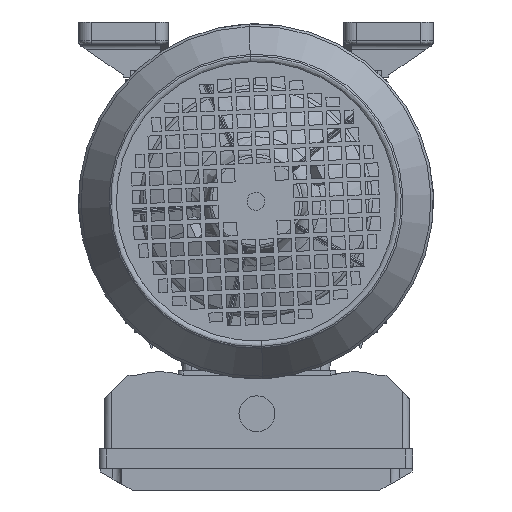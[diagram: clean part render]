
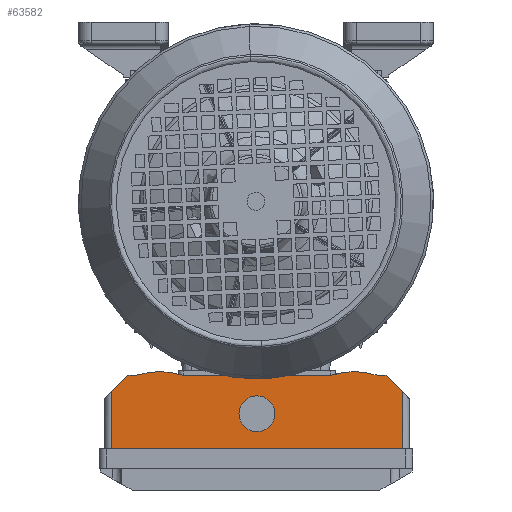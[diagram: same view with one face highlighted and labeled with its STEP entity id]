
A CAD part, front view. The second image highlights one B-rep face of the part: STEP entity #63582.
In plain terms, the highlighted planar face has unit normal (0, -1, 0) as drawn and (0, 0, -1) by its records, which use the part's own axes.
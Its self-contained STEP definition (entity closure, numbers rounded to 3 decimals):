
#10948 = CIRCLE ( 'NONE', #42599, 10. ) ;
#10960 = CIRCLE ( 'NONE', #42702, 41.641 ) ;
#10967 = CIRCLE ( 'NONE', #42751, 41.641 ) ;
#10976 = CIRCLE ( 'NONE', #42831, 10. ) ;
#15045 = VERTEX_POINT ( 'NONE', #52760 ) ;
#15061 = VERTEX_POINT ( 'NONE', #52776 ) ;
#15106 = VERTEX_POINT ( 'NONE', #52821 ) ;
#15130 = VERTEX_POINT ( 'NONE', #52845 ) ;
#15143 = VERTEX_POINT ( 'NONE', #52858 ) ;
#15163 = VERTEX_POINT ( 'NONE', #52878 ) ;
#15178 = VERTEX_POINT ( 'NONE', #52893 ) ;
#15190 = VERTEX_POINT ( 'NONE', #52905 ) ;
#15214 = VERTEX_POINT ( 'NONE', #52929 ) ;
#15232 = VERTEX_POINT ( 'NONE', #52947 ) ;
#15240 = VERTEX_POINT ( 'NONE', #52955 ) ;
#15280 = VERTEX_POINT ( 'NONE', #52995 ) ;
#41779 = FACE_BOUND ( 'NONE', #51202, .T. ) ;
#41783 = FACE_OUTER_BOUND ( 'NONE', #50878, .T. ) ;
#41810 = AXIS2_PLACEMENT_3D ( 'NONE', #44115, #44116, #44117 ) ;
#42599 = AXIS2_PLACEMENT_3D ( 'NONE', #46404, #46405, #46406 ) ;
#42702 = AXIS2_PLACEMENT_3D ( 'NONE', #46534, #46541, #46542 ) ;
#42743 = VECTOR ( 'NONE', #46592, 1000. ) ;
#42751 = AXIS2_PLACEMENT_3D ( 'NONE', #46616, #46620, #46621 ) ;
#42771 = VECTOR ( 'NONE', #46653, 1000. ) ;
#42791 = VECTOR ( 'NONE', #46684, 1000. ) ;
#42799 = VECTOR ( 'NONE', #46707, 1000. ) ;
#42824 = VECTOR ( 'NONE', #46771, 1000. ) ;
#42831 = AXIS2_PLACEMENT_3D ( 'NONE', #47372, #47398, #47400 ) ;
#42839 = VECTOR ( 'NONE', #47396, 1000. ) ;
#42844 = VECTOR ( 'NONE', #47407, 1000. ) ;
#42847 = VECTOR ( 'NONE', #47413, 1000. ) ;
#44114 = PLANE ( 'NONE',  #41810 ) ;
#44115 = CARTESIAN_POINT ( 'NONE',  ( -54.25, 39.641, -144. ) ) ;
#44116 = DIRECTION ( 'NONE',  ( 0., 0., -1. ) ) ;
#44117 = DIRECTION ( 'NONE',  ( -1., 0., 0. ) ) ;
#46404 = CARTESIAN_POINT ( 'NONE',  ( 0., 21.5, -144. ) ) ;
#46405 = DIRECTION ( 'NONE',  ( 0., 0., -1. ) ) ;
#46406 = DIRECTION ( 'NONE',  ( -1., 0., 0. ) ) ;
#46534 = CARTESIAN_POINT ( 'NONE',  ( 54.25, 39.641, -144. ) ) ;
#46541 = DIRECTION ( 'NONE',  ( 0., 0., 1. ) ) ;
#46542 = DIRECTION ( 'NONE',  ( 1., 0., 0. ) ) ;
#46590 = LINE ( 'NONE', #46591, #42743 ) ;
#46591 = CARTESIAN_POINT ( 'NONE',  ( -41.5, 0., -144. ) ) ;
#46592 = DIRECTION ( 'NONE',  ( 1., 0., 0. ) ) ;
#46616 = CARTESIAN_POINT ( 'NONE',  ( -54.25, 39.641, -144. ) ) ;
#46620 = DIRECTION ( 'NONE',  ( 0., 0., 1. ) ) ;
#46621 = DIRECTION ( 'NONE',  ( -1., 0., 0. ) ) ;
#46651 = LINE ( 'NONE', #46652, #42771 ) ;
#46652 = CARTESIAN_POINT ( 'NONE',  ( -85., 41., -144. ) ) ;
#46653 = DIRECTION ( 'NONE',  ( -1., 0., 0. ) ) ;
#46680 = LINE ( 'NONE', #46682, #42791 ) ;
#46682 = CARTESIAN_POINT ( 'NONE',  ( -72., 0., -144. ) ) ;
#46684 = DIRECTION ( 'NONE',  ( 1., 0., 0. ) ) ;
#46702 = LINE ( 'NONE', #46704, #42799 ) ;
#46704 = CARTESIAN_POINT ( 'NONE',  ( -85., 13., -144. ) ) ;
#46707 = DIRECTION ( 'NONE',  ( 0.707, -0.707, 0. ) ) ;
#46767 = LINE ( 'NONE', #46769, #42824 ) ;
#46769 = CARTESIAN_POINT ( 'NONE',  ( 85., 13., -144. ) ) ;
#46771 = DIRECTION ( 'NONE',  ( 0.707, 0.707, 0. ) ) ;
#47372 = CARTESIAN_POINT ( 'NONE',  ( 0., 21.5, -144. ) ) ;
#47392 = LINE ( 'NONE', #47394, #42839 ) ;
#47394 = CARTESIAN_POINT ( 'NONE',  ( 72., 0., -144. ) ) ;
#47396 = DIRECTION ( 'NONE',  ( 1., 0., 0. ) ) ;
#47398 = DIRECTION ( 'NONE',  ( 0., 0., -1. ) ) ;
#47400 = DIRECTION ( 'NONE',  ( -1., 0., 0. ) ) ;
#47403 = LINE ( 'NONE', #47405, #42844 ) ;
#47405 = CARTESIAN_POINT ( 'NONE',  ( 81., 39.641, -144. ) ) ;
#47407 = DIRECTION ( 'NONE',  ( 0., -1., 0. ) ) ;
#47409 = LINE ( 'NONE', #47411, #42847 ) ;
#47411 = CARTESIAN_POINT ( 'NONE',  ( -81., 39.641, -144. ) ) ;
#47413 = DIRECTION ( 'NONE',  ( 0., 1., 0. ) ) ;
#50878 = EDGE_LOOP ( 'NONE', ( #72518, #72523, #72521, #72525, #72524, #72526, #72527, #72528, #72529, #72530 ) ) ;
#51202 = EDGE_LOOP ( 'NONE', ( #72520, #72522 ) ) ;
#52760 = CARTESIAN_POINT ( 'NONE',  ( -41.5, 0., -144. ) ) ;
#52776 = CARTESIAN_POINT ( 'NONE',  ( -81., 9., -144. ) ) ;
#52821 = CARTESIAN_POINT ( 'NONE',  ( 81., 41., -144. ) ) ;
#52845 = CARTESIAN_POINT ( 'NONE',  ( 67., 0., -144. ) ) ;
#52858 = CARTESIAN_POINT ( 'NONE',  ( -10., 21.5, -144. ) ) ;
#52878 = CARTESIAN_POINT ( 'NONE',  ( -72., 0., -144. ) ) ;
#52893 = CARTESIAN_POINT ( 'NONE',  ( 41.5, 0., -144. ) ) ;
#52905 = CARTESIAN_POINT ( 'NONE',  ( -67., 0., -144. ) ) ;
#52929 = CARTESIAN_POINT ( 'NONE',  ( -81., 41., -144. ) ) ;
#52947 = CARTESIAN_POINT ( 'NONE',  ( 10., 21.5, -144. ) ) ;
#52955 = CARTESIAN_POINT ( 'NONE',  ( 72., 0., -144. ) ) ;
#52995 = CARTESIAN_POINT ( 'NONE',  ( 81., 9., -144. ) ) ;
#63582 = ADVANCED_FACE ( 'NONE', ( #41779, #41783 ), #44114, .T. ) ;
#72518 = ORIENTED_EDGE ( 'NONE', *, *, #80816, .F. ) ;
#72520 = ORIENTED_EDGE ( 'NONE', *, *, #80842, .F. ) ;
#72521 = ORIENTED_EDGE ( 'NONE', *, *, #80836, .F. ) ;
#72522 = ORIENTED_EDGE ( 'NONE', *, *, #80750, .F. ) ;
#72523 = ORIENTED_EDGE ( 'NONE', *, *, #80843, .T. ) ;
#72524 = ORIENTED_EDGE ( 'NONE', *, *, #80789, .F. ) ;
#72525 = ORIENTED_EDGE ( 'NONE', *, *, #80841, .F. ) ;
#72526 = ORIENTED_EDGE ( 'NONE', *, *, #80803, .F. ) ;
#72527 = ORIENTED_EDGE ( 'NONE', *, *, #80808, .F. ) ;
#72528 = ORIENTED_EDGE ( 'NONE', *, *, #80824, .F. ) ;
#72529 = ORIENTED_EDGE ( 'NONE', *, *, #80827, .F. ) ;
#72530 = ORIENTED_EDGE ( 'NONE', *, *, #80844, .T. ) ;
#80750 = EDGE_CURVE ( 'NONE', #15232, #15143, #10948, .T. ) ;
#80789 = EDGE_CURVE ( 'NONE', #15178, #15130, #10960, .T. ) ;
#80803 = EDGE_CURVE ( 'NONE', #15045, #15178, #46590, .T. ) ;
#80808 = EDGE_CURVE ( 'NONE', #15190, #15045, #10967, .T. ) ;
#80816 = EDGE_CURVE ( 'NONE', #15106, #15214, #46651, .T. ) ;
#80824 = EDGE_CURVE ( 'NONE', #15163, #15190, #46680, .T. ) ;
#80827 = EDGE_CURVE ( 'NONE', #15061, #15163, #46702, .T. ) ;
#80836 = EDGE_CURVE ( 'NONE', #15240, #15280, #46767, .T. ) ;
#80841 = EDGE_CURVE ( 'NONE', #15130, #15240, #47392, .T. ) ;
#80842 = EDGE_CURVE ( 'NONE', #15143, #15232, #10976, .T. ) ;
#80843 = EDGE_CURVE ( 'NONE', #15106, #15280, #47403, .T. ) ;
#80844 = EDGE_CURVE ( 'NONE', #15061, #15214, #47409, .T. ) ;
